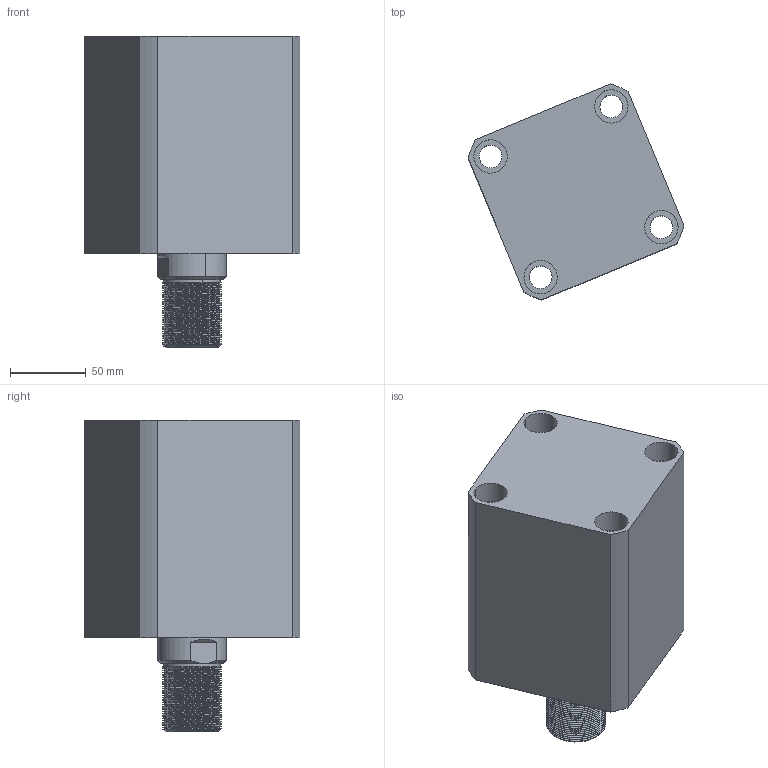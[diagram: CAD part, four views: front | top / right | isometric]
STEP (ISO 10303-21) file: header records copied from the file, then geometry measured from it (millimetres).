
FILE_DESCRIPTION (( 'STEP AP214' ), '1' );
FILE_NAME ('chtb-sd80x65n_asm.STEP', '2018-05-26T08:55:13', ( 'Windows' ), ( 'Microsoft' ), 'SwSTEP 2.0', 'SolidWorks 2015', '' );
FILE_SCHEMA (( 'AUTOMOTIVE_DESIGN' ));
Length unit declared in the file: millimetre
Products named in the file (4): CHTB-SD80X65NHSG; CHTB-SD80X65NBT; CHTB-SD80QG; chtb-sd80x65n_asm
Assembly tree (3 placements, depth 2):
  chtb-sd80x65n_asm
    CHTB-SD80QG
    CHTB-SD80X65NBT
    CHTB-SD80X65NHSG
Bounding box: 142.06 x 142.06 x 205 mm (x, y, z)
Volume: 1542658.6 mm3; surface area: 222430.1 mm2
Topology: 3 solids, 3 shells, 253 faces, 689 edges, 462 vertices
Faces by surface type: cylinder 159, plane 40, cone 20, torus 18, bspline 16
Entity records: 20271 total; most frequent: CARTESIAN_POINT 14293, ORIENTED_EDGE 1370, DIRECTION 1078, EDGE_CURVE 685, VERTEX_POINT 462, AXIS2_PLACEMENT_3D 439, EDGE_LOOP 291, FACE_OUTER_BOUND 253
